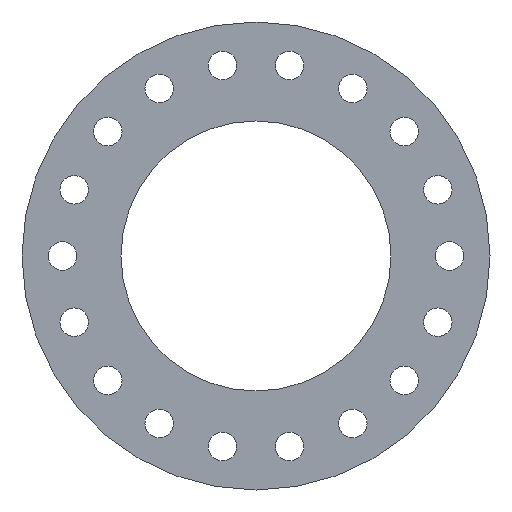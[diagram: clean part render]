
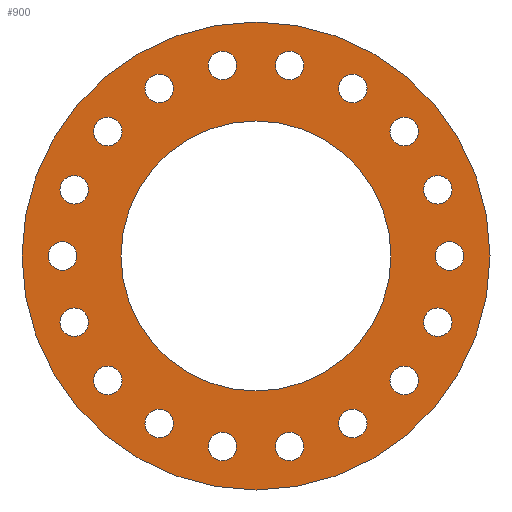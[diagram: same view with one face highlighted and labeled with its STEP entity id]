
A CAD part, left-side view. The second image highlights one B-rep face of the part: STEP entity #900.
In plain terms, the highlighted planar face has unit normal (-1, 0, 0).
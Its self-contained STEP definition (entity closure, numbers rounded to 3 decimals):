
#19=PLANE('',#1038);
#140=FACE_BOUND('',#358,.T.);
#141=FACE_BOUND('',#359,.T.);
#142=FACE_BOUND('',#360,.T.);
#143=FACE_BOUND('',#361,.T.);
#144=FACE_BOUND('',#362,.T.);
#145=FACE_BOUND('',#363,.T.);
#146=FACE_BOUND('',#364,.T.);
#147=FACE_BOUND('',#365,.T.);
#148=FACE_BOUND('',#366,.T.);
#149=FACE_BOUND('',#367,.T.);
#150=FACE_BOUND('',#368,.T.);
#151=FACE_BOUND('',#369,.T.);
#152=FACE_BOUND('',#370,.T.);
#153=FACE_BOUND('',#371,.T.);
#154=FACE_BOUND('',#372,.T.);
#155=FACE_BOUND('',#373,.T.);
#156=FACE_BOUND('',#374,.T.);
#157=FACE_BOUND('',#375,.T.);
#158=FACE_BOUND('',#376,.T.);
#228=FACE_OUTER_BOUND('',#357,.T.);
#357=EDGE_LOOP('',(#797));
#358=EDGE_LOOP('',(#798));
#359=EDGE_LOOP('',(#799));
#360=EDGE_LOOP('',(#800));
#361=EDGE_LOOP('',(#801));
#362=EDGE_LOOP('',(#802));
#363=EDGE_LOOP('',(#803));
#364=EDGE_LOOP('',(#804));
#365=EDGE_LOOP('',(#805));
#366=EDGE_LOOP('',(#806));
#367=EDGE_LOOP('',(#807));
#368=EDGE_LOOP('',(#808));
#369=EDGE_LOOP('',(#809));
#370=EDGE_LOOP('',(#810));
#371=EDGE_LOOP('',(#811));
#372=EDGE_LOOP('',(#812));
#373=EDGE_LOOP('',(#813));
#374=EDGE_LOOP('',(#814));
#375=EDGE_LOOP('',(#815));
#376=EDGE_LOOP('',(#816));
#457=CIRCLE('',#967,15.835);
#459=CIRCLE('',#971,15.835);
#461=CIRCLE('',#975,15.835);
#463=CIRCLE('',#979,15.835);
#465=CIRCLE('',#983,15.835);
#467=CIRCLE('',#987,15.835);
#469=CIRCLE('',#991,15.835);
#471=CIRCLE('',#995,15.835);
#473=CIRCLE('',#999,15.835);
#475=CIRCLE('',#1003,15.835);
#477=CIRCLE('',#1007,15.835);
#479=CIRCLE('',#1011,15.835);
#481=CIRCLE('',#1015,15.835);
#483=CIRCLE('',#1019,15.835);
#485=CIRCLE('',#1023,15.835);
#487=CIRCLE('',#1027,15.835);
#489=CIRCLE('',#1031,15.835);
#491=CIRCLE('',#1035,15.835);
#493=CIRCLE('',#1039,260.);
#494=CIRCLE('',#1040,150.);
#545=VERTEX_POINT('',#1432);
#547=VERTEX_POINT('',#1438);
#549=VERTEX_POINT('',#1444);
#551=VERTEX_POINT('',#1450);
#553=VERTEX_POINT('',#1456);
#555=VERTEX_POINT('',#1462);
#557=VERTEX_POINT('',#1468);
#559=VERTEX_POINT('',#1474);
#561=VERTEX_POINT('',#1480);
#563=VERTEX_POINT('',#1486);
#565=VERTEX_POINT('',#1492);
#567=VERTEX_POINT('',#1498);
#569=VERTEX_POINT('',#1504);
#571=VERTEX_POINT('',#1510);
#573=VERTEX_POINT('',#1516);
#575=VERTEX_POINT('',#1522);
#577=VERTEX_POINT('',#1528);
#579=VERTEX_POINT('',#1534);
#581=VERTEX_POINT('',#1540);
#582=VERTEX_POINT('',#1542);
#633=EDGE_CURVE('',#545,#545,#457,.T.);
#635=EDGE_CURVE('',#547,#547,#459,.T.);
#637=EDGE_CURVE('',#549,#549,#461,.T.);
#639=EDGE_CURVE('',#551,#551,#463,.T.);
#641=EDGE_CURVE('',#553,#553,#465,.T.);
#643=EDGE_CURVE('',#555,#555,#467,.T.);
#645=EDGE_CURVE('',#557,#557,#469,.T.);
#647=EDGE_CURVE('',#559,#559,#471,.T.);
#649=EDGE_CURVE('',#561,#561,#473,.T.);
#651=EDGE_CURVE('',#563,#563,#475,.T.);
#653=EDGE_CURVE('',#565,#565,#477,.T.);
#655=EDGE_CURVE('',#567,#567,#479,.T.);
#657=EDGE_CURVE('',#569,#569,#481,.T.);
#659=EDGE_CURVE('',#571,#571,#483,.T.);
#661=EDGE_CURVE('',#573,#573,#485,.T.);
#663=EDGE_CURVE('',#575,#575,#487,.T.);
#665=EDGE_CURVE('',#577,#577,#489,.T.);
#667=EDGE_CURVE('',#579,#579,#491,.T.);
#669=EDGE_CURVE('',#581,#581,#493,.T.);
#670=EDGE_CURVE('',#582,#582,#494,.T.);
#797=ORIENTED_EDGE('',*,*,#669,.F.);
#798=ORIENTED_EDGE('',*,*,#633,.T.);
#799=ORIENTED_EDGE('',*,*,#635,.T.);
#800=ORIENTED_EDGE('',*,*,#637,.T.);
#801=ORIENTED_EDGE('',*,*,#639,.T.);
#802=ORIENTED_EDGE('',*,*,#641,.T.);
#803=ORIENTED_EDGE('',*,*,#643,.T.);
#804=ORIENTED_EDGE('',*,*,#645,.T.);
#805=ORIENTED_EDGE('',*,*,#647,.T.);
#806=ORIENTED_EDGE('',*,*,#649,.T.);
#807=ORIENTED_EDGE('',*,*,#651,.T.);
#808=ORIENTED_EDGE('',*,*,#653,.T.);
#809=ORIENTED_EDGE('',*,*,#655,.T.);
#810=ORIENTED_EDGE('',*,*,#657,.T.);
#811=ORIENTED_EDGE('',*,*,#659,.T.);
#812=ORIENTED_EDGE('',*,*,#661,.T.);
#813=ORIENTED_EDGE('',*,*,#663,.T.);
#814=ORIENTED_EDGE('',*,*,#665,.T.);
#815=ORIENTED_EDGE('',*,*,#667,.T.);
#816=ORIENTED_EDGE('',*,*,#670,.T.);
#900=ADVANCED_FACE('',(#228,#140,#141,#142,#143,#144,#145,#146,#147,#148,
#149,#150,#151,#152,#153,#154,#155,#156,#157,#158),#19,.T.);
#967=AXIS2_PLACEMENT_3D('',#1433,#1157,#1158);
#971=AXIS2_PLACEMENT_3D('',#1439,#1165,#1166);
#975=AXIS2_PLACEMENT_3D('',#1445,#1173,#1174);
#979=AXIS2_PLACEMENT_3D('',#1451,#1181,#1182);
#983=AXIS2_PLACEMENT_3D('',#1457,#1189,#1190);
#987=AXIS2_PLACEMENT_3D('',#1463,#1197,#1198);
#991=AXIS2_PLACEMENT_3D('',#1469,#1205,#1206);
#995=AXIS2_PLACEMENT_3D('',#1475,#1213,#1214);
#999=AXIS2_PLACEMENT_3D('',#1481,#1221,#1222);
#1003=AXIS2_PLACEMENT_3D('',#1487,#1229,#1230);
#1007=AXIS2_PLACEMENT_3D('',#1493,#1237,#1238);
#1011=AXIS2_PLACEMENT_3D('',#1499,#1245,#1246);
#1015=AXIS2_PLACEMENT_3D('',#1505,#1253,#1254);
#1019=AXIS2_PLACEMENT_3D('',#1511,#1261,#1262);
#1023=AXIS2_PLACEMENT_3D('',#1517,#1269,#1270);
#1027=AXIS2_PLACEMENT_3D('',#1523,#1277,#1278);
#1031=AXIS2_PLACEMENT_3D('',#1529,#1285,#1286);
#1035=AXIS2_PLACEMENT_3D('',#1535,#1293,#1294);
#1038=AXIS2_PLACEMENT_3D('',#1539,#1299,#1300);
#1039=AXIS2_PLACEMENT_3D('',#1541,#1301,#1302);
#1040=AXIS2_PLACEMENT_3D('',#1543,#1303,#1304);
#1157=DIRECTION('center_axis',(1.,0.,0.));
#1158=DIRECTION('ref_axis',(0.,0.342,0.94));
#1165=DIRECTION('center_axis',(1.,0.,0.));
#1166=DIRECTION('ref_axis',(0.,0.643,0.766));
#1173=DIRECTION('center_axis',(1.,0.,0.));
#1174=DIRECTION('ref_axis',(0.,0.866,0.5));
#1181=DIRECTION('center_axis',(1.,0.,0.));
#1182=DIRECTION('ref_axis',(0.,0.985,0.174));
#1189=DIRECTION('center_axis',(1.,0.,0.));
#1190=DIRECTION('ref_axis',(0.,0.985,-0.174));
#1197=DIRECTION('center_axis',(1.,0.,0.));
#1198=DIRECTION('ref_axis',(0.,0.866,-0.5));
#1205=DIRECTION('center_axis',(1.,0.,0.));
#1206=DIRECTION('ref_axis',(0.,0.643,-0.766));
#1213=DIRECTION('center_axis',(1.,0.,0.));
#1214=DIRECTION('ref_axis',(0.,0.342,-0.94));
#1221=DIRECTION('center_axis',(1.,0.,0.));
#1222=DIRECTION('ref_axis',(0.,0.,-1.));
#1229=DIRECTION('center_axis',(1.,0.,0.));
#1230=DIRECTION('ref_axis',(0.,-0.342,-0.94));
#1237=DIRECTION('center_axis',(1.,0.,0.));
#1238=DIRECTION('ref_axis',(0.,-0.643,-0.766));
#1245=DIRECTION('center_axis',(1.,0.,0.));
#1246=DIRECTION('ref_axis',(0.,-0.866,-0.5));
#1253=DIRECTION('center_axis',(1.,0.,0.));
#1254=DIRECTION('ref_axis',(0.,-0.985,-0.174));
#1261=DIRECTION('center_axis',(1.,0.,0.));
#1262=DIRECTION('ref_axis',(0.,-0.985,0.174));
#1269=DIRECTION('center_axis',(1.,0.,0.));
#1270=DIRECTION('ref_axis',(0.,-0.866,0.5));
#1277=DIRECTION('center_axis',(1.,0.,0.));
#1278=DIRECTION('ref_axis',(0.,-0.643,0.766));
#1285=DIRECTION('center_axis',(1.,0.,0.));
#1286=DIRECTION('ref_axis',(0.,-0.342,0.94));
#1293=DIRECTION('center_axis',(1.,0.,0.));
#1294=DIRECTION('ref_axis',(0.,0.,1.));
#1299=DIRECTION('center_axis',(-1.,0.,0.));
#1300=DIRECTION('ref_axis',(0.,0.,1.));
#1301=DIRECTION('center_axis',(1.,0.,0.));
#1302=DIRECTION('ref_axis',(0.,0.,-1.));
#1303=DIRECTION('center_axis',(1.,0.,0.));
#1304=DIRECTION('ref_axis',(0.,0.,-1.));
#1432=CARTESIAN_POINT('',(-10.843,207.45,-58.654));
#1433=CARTESIAN_POINT('Origin',(-10.843,202.034,-73.534));
#1438=CARTESIAN_POINT('',(-10.843,174.878,-126.069));
#1439=CARTESIAN_POINT('Origin',(-10.843,164.7,-138.199));
#1444=CARTESIAN_POINT('',(-10.843,121.214,-178.278));
#1445=CARTESIAN_POINT('Origin',(-10.843,107.5,-186.195));
#1450=CARTESIAN_POINT('',(-10.843,52.929,-208.984));
#1451=CARTESIAN_POINT('Origin',(-10.843,37.334,-211.734));
#1456=CARTESIAN_POINT('',(-10.843,-21.74,-214.483));
#1457=CARTESIAN_POINT('Origin',(-10.843,-37.334,-211.734));
#1462=CARTESIAN_POINT('',(-10.843,-93.786,-194.113));
#1463=CARTESIAN_POINT('Origin',(-10.843,-107.5,-186.195));
#1468=CARTESIAN_POINT('',(-10.843,-154.521,-150.33));
#1469=CARTESIAN_POINT('Origin',(-10.843,-164.7,-138.199));
#1474=CARTESIAN_POINT('',(-10.843,-196.618,-88.414));
#1475=CARTESIAN_POINT('Origin',(-10.843,-202.034,-73.534));
#1480=CARTESIAN_POINT('',(-10.843,-215.,-15.835));
#1481=CARTESIAN_POINT('Origin',(-10.843,-215.,0.));
#1486=CARTESIAN_POINT('',(-10.843,-207.45,58.654));
#1487=CARTESIAN_POINT('Origin',(-10.843,-202.034,73.534));
#1492=CARTESIAN_POINT('',(-10.843,-174.878,126.069));
#1493=CARTESIAN_POINT('Origin',(-10.843,-164.7,138.199));
#1498=CARTESIAN_POINT('',(-10.843,-121.214,178.278));
#1499=CARTESIAN_POINT('Origin',(-10.843,-107.5,186.195));
#1504=CARTESIAN_POINT('',(-10.843,-52.929,208.984));
#1505=CARTESIAN_POINT('Origin',(-10.843,-37.334,211.734));
#1510=CARTESIAN_POINT('',(-10.843,21.74,214.483));
#1511=CARTESIAN_POINT('Origin',(-10.843,37.334,211.734));
#1516=CARTESIAN_POINT('',(-10.843,93.786,194.113));
#1517=CARTESIAN_POINT('Origin',(-10.843,107.5,186.195));
#1522=CARTESIAN_POINT('',(-10.843,154.521,150.33));
#1523=CARTESIAN_POINT('Origin',(-10.843,164.7,138.199));
#1528=CARTESIAN_POINT('',(-10.843,196.618,88.414));
#1529=CARTESIAN_POINT('Origin',(-10.843,202.034,73.534));
#1534=CARTESIAN_POINT('',(-10.843,215.,15.835));
#1535=CARTESIAN_POINT('Origin',(-10.843,215.,0.));
#1539=CARTESIAN_POINT('Origin',(-10.843,260.,0.));
#1540=CARTESIAN_POINT('',(-10.843,260.,0.));
#1541=CARTESIAN_POINT('Origin',(-10.843,0.,0.));
#1542=CARTESIAN_POINT('',(-10.843,150.,0.));
#1543=CARTESIAN_POINT('Origin',(-10.843,0.,0.));
